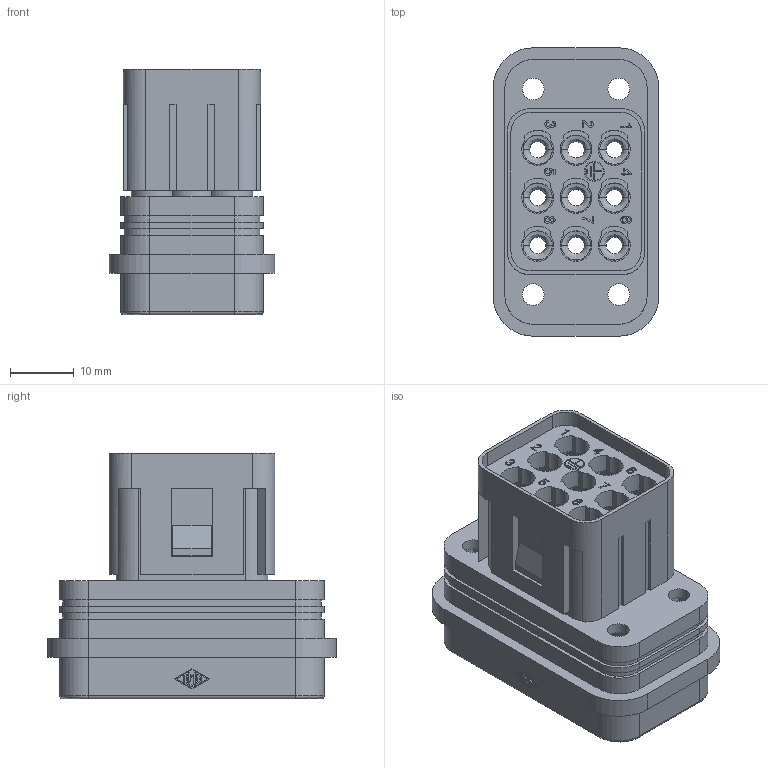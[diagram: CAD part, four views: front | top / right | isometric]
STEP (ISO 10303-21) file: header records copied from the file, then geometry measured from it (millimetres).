
FILE_DESCRIPTION (( 'STEP AP203' ), '1' );
FILE_NAME ('CQM-08.STEP', '2017-03-06T16:48:03', ( 'Mencom User' ), ( 'Hewlett-Packard Company' ), 'SwSTEP 2.0', 'SolidWorks 2016', '' );
FILE_SCHEMA (( 'CONFIG_CONTROL_DESIGN' ));
Length unit declared in the file: inch
Products named in the file (1): CQM-08
Bounding box: 26 x 45.2 x 38.5 mm (x, y, z)
Volume: 11132.4 mm3; surface area: 14886.4 mm2
Topology: 1 solids, 5 shells, 1309 faces, 3577 edges, 2365 vertices
Faces by surface type: plane 1048, cylinder 215, bspline 26, cone 20
Entity records: 41459 total; most frequent: CARTESIAN_POINT 7930, ORIENTED_EDGE 7154, DIRECTION 6557, EDGE_CURVE 3577, LINE 3059, VECTOR 3059, VERTEX_POINT 2365, AXIS2_PLACEMENT_3D 1749
